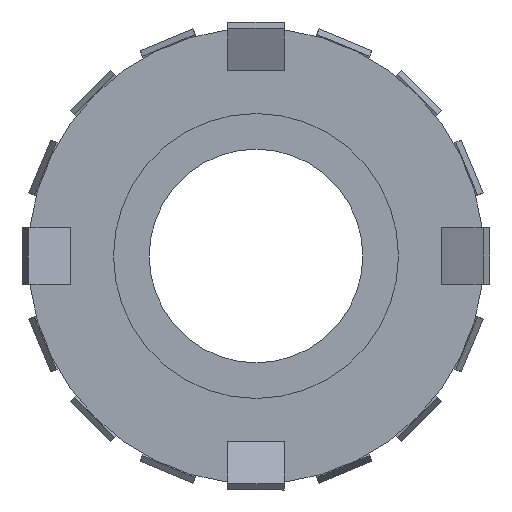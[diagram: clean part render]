
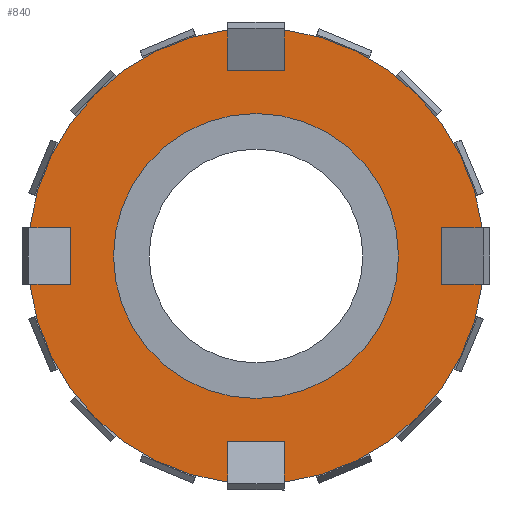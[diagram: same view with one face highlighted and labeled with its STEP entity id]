
A CAD part, left-side view. The second image highlights one B-rep face of the part: STEP entity #840.
In plain terms, the highlighted planar face has unit normal (-1, 0, 0).
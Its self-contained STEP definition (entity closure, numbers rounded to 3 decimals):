
#323 = ORIENTED_EDGE ( 'NONE', *, *, #851, .T. ) ;
#569 = VERTEX_POINT ( 'NONE', #3425 ) ;
#573 = EDGE_CURVE ( 'NONE', #574, #583, #3632, .T. ) ;
#574 = VERTEX_POINT ( 'NONE', #3794 ) ;
#583 = VERTEX_POINT ( 'NONE', #3590 ) ;
#786 = ORIENTED_EDGE ( 'NONE', *, *, #787, .F. ) ;
#787 = EDGE_CURVE ( 'NONE', #788, #982, #3984, .T. ) ;
#788 = VERTEX_POINT ( 'NONE', #3934 ) ;
#789 = ORIENTED_EDGE ( 'NONE', *, *, #790, .F. ) ;
#790 = EDGE_CURVE ( 'NONE', #852, #788, #3933, .T. ) ;
#840 = ADVANCED_FACE ( 'NONE', ( #3879, #3878 ), #3877, .F. ) ;
#841 = EDGE_LOOP ( 'NONE', ( #842, #882 ) ) ;
#842 = ORIENTED_EDGE ( 'NONE', *, *, #974, .F. ) ;
#851 = EDGE_CURVE ( 'NONE', #852, #853, #3916, .T. ) ;
#852 = VERTEX_POINT ( 'NONE', #3911 ) ;
#853 = VERTEX_POINT ( 'NONE', #3910 ) ;
#875 = EDGE_CURVE ( 'NONE', #569, #876, #4219, .T. ) ;
#876 = VERTEX_POINT ( 'NONE', #4215 ) ;
#882 = ORIENTED_EDGE ( 'NONE', *, *, #875, .F. ) ;
#883 = EDGE_LOOP ( 'NONE', ( #884, #888, #897, #898, #901, #977, #979, #980, #786, #789, #323, #915, #917, #916, #992, #993 ) ) ;
#884 = ORIENTED_EDGE ( 'NONE', *, *, #885, .F. ) ;
#885 = EDGE_CURVE ( 'NONE', #886, #887, #4040, .T. ) ;
#886 = VERTEX_POINT ( 'NONE', #4206 ) ;
#887 = VERTEX_POINT ( 'NONE', #4205 ) ;
#888 = ORIENTED_EDGE ( 'NONE', *, *, #896, .F. ) ;
#896 = EDGE_CURVE ( 'NONE', #574, #886, #4197, .T. ) ;
#897 = ORIENTED_EDGE ( 'NONE', *, *, #573, .T. ) ;
#898 = ORIENTED_EDGE ( 'NONE', *, *, #899, .F. ) ;
#899 = EDGE_CURVE ( 'NONE', #900, #583, #4187, .T. ) ;
#900 = VERTEX_POINT ( 'NONE', #4074 ) ;
#901 = ORIENTED_EDGE ( 'NONE', *, *, #902, .F. ) ;
#902 = EDGE_CURVE ( 'NONE', #903, #900, #4073, .T. ) ;
#903 = VERTEX_POINT ( 'NONE', #4069 ) ;
#915 = ORIENTED_EDGE ( 'NONE', *, *, #936, .F. ) ;
#916 = ORIENTED_EDGE ( 'NONE', *, *, #991, .F. ) ;
#917 = ORIENTED_EDGE ( 'NONE', *, *, #918, .F. ) ;
#918 = EDGE_CURVE ( 'NONE', #919, #937, #4252, .T. ) ;
#919 = VERTEX_POINT ( 'NONE', #4248 ) ;
#923 = VERTEX_POINT ( 'NONE', #4228 ) ;
#936 = EDGE_CURVE ( 'NONE', #937, #853, #4091, .T. ) ;
#937 = VERTEX_POINT ( 'NONE', #4087 ) ;
#959 = VERTEX_POINT ( 'NONE', #4162 ) ;
#961 = EDGE_CURVE ( 'NONE', #962, #959, #4161, .T. ) ;
#962 = VERTEX_POINT ( 'NONE', #4156 ) ;
#967 = EDGE_CURVE ( 'NONE', #970, #923, #4147, .T. ) ;
#970 = VERTEX_POINT ( 'NONE', #4133 ) ;
#974 = EDGE_CURVE ( 'NONE', #876, #569, #4126, .T. ) ;
#977 = ORIENTED_EDGE ( 'NONE', *, *, #978, .F. ) ;
#978 = EDGE_CURVE ( 'NONE', #970, #903, #4115, .T. ) ;
#979 = ORIENTED_EDGE ( 'NONE', *, *, #967, .T. ) ;
#980 = ORIENTED_EDGE ( 'NONE', *, *, #981, .F. ) ;
#981 = EDGE_CURVE ( 'NONE', #982, #923, #4111, .T. ) ;
#982 = VERTEX_POINT ( 'NONE', #4107 ) ;
#991 = EDGE_CURVE ( 'NONE', #962, #919, #4065, .T. ) ;
#992 = ORIENTED_EDGE ( 'NONE', *, *, #961, .T. ) ;
#993 = ORIENTED_EDGE ( 'NONE', *, *, #994, .F. ) ;
#994 = EDGE_CURVE ( 'NONE', #887, #959, #4061, .T. ) ;
#3425 = CARTESIAN_POINT ( 'NONE',  ( 5., 0., -10. ) ) ;
#3590 = CARTESIAN_POINT ( 'NONE',  ( 5., -15.875, -2. ) ) ;
#3632 = CIRCLE ( 'NONE', #3637, 16. ) ;
#3637 = AXIS2_PLACEMENT_3D ( 'NONE', #3797, #3796, #3795 ) ;
#3794 = CARTESIAN_POINT ( 'NONE',  ( 5., -2., -15.875 ) ) ;
#3795 = DIRECTION ( 'NONE',  ( 0., 0., 1. ) ) ;
#3796 = DIRECTION ( 'NONE',  ( -1., 0., 0. ) ) ;
#3797 = CARTESIAN_POINT ( 'NONE',  ( 5., 0., 0. ) ) ;
#3877 = PLANE ( 'NONE',  #3932 ) ;
#3878 = FACE_OUTER_BOUND ( 'NONE', #883, .T. ) ;
#3879 = FACE_BOUND ( 'NONE', #841, .T. ) ;
#3910 = CARTESIAN_POINT ( 'NONE',  ( 5., 15.875, 2. ) ) ;
#3911 = CARTESIAN_POINT ( 'NONE',  ( 5., 2., 15.875 ) ) ;
#3912 = DIRECTION ( 'NONE',  ( 0., 0., 1. ) ) ;
#3913 = DIRECTION ( 'NONE',  ( -1., 0., 0. ) ) ;
#3914 = CARTESIAN_POINT ( 'NONE',  ( 5., 0., 0. ) ) ;
#3915 = AXIS2_PLACEMENT_3D ( 'NONE', #3914, #3913, #3912 ) ;
#3916 = CIRCLE ( 'NONE', #3915, 16. ) ;
#3929 = DIRECTION ( 'NONE',  ( 0., 0., -1. ) ) ;
#3930 = DIRECTION ( 'NONE',  ( 1., 0., 0. ) ) ;
#3931 = CARTESIAN_POINT ( 'NONE',  ( 5., 16., 0. ) ) ;
#3932 = AXIS2_PLACEMENT_3D ( 'NONE', #3931, #3930, #3929 ) ;
#3933 = LINE ( 'NONE', #3964, #3963 ) ;
#3934 = CARTESIAN_POINT ( 'NONE',  ( 5., 2., 13. ) ) ;
#3935 = DIRECTION ( 'NONE',  ( 0., -1., 0. ) ) ;
#3936 = VECTOR ( 'NONE', #3935, 1000. ) ;
#3937 = CARTESIAN_POINT ( 'NONE',  ( 5., 2., 13. ) ) ;
#3962 = DIRECTION ( 'NONE',  ( 0., 0., -1. ) ) ;
#3963 = VECTOR ( 'NONE', #3962, 1000. ) ;
#3964 = CARTESIAN_POINT ( 'NONE',  ( 5., 2., 15.875 ) ) ;
#3984 = LINE ( 'NONE', #3937, #3936 ) ;
#4040 = LINE ( 'NONE', #4209, #4208 ) ;
#4058 = DIRECTION ( 'NONE',  ( 0., 0., -1. ) ) ;
#4059 = VECTOR ( 'NONE', #4058, 1000. ) ;
#4060 = CARTESIAN_POINT ( 'NONE',  ( 5., 2., -15.875 ) ) ;
#4061 = LINE ( 'NONE', #4060, #4059 ) ;
#4062 = DIRECTION ( 'NONE',  ( 0., -1., 0. ) ) ;
#4063 = VECTOR ( 'NONE', #4062, 1000. ) ;
#4064 = CARTESIAN_POINT ( 'NONE',  ( 5., 15.875, -2. ) ) ;
#4065 = LINE ( 'NONE', #4064, #4063 ) ;
#4069 = CARTESIAN_POINT ( 'NONE',  ( 5., -13., 2. ) ) ;
#4070 = DIRECTION ( 'NONE',  ( 0., 0., -1. ) ) ;
#4071 = VECTOR ( 'NONE', #4070, 1000. ) ;
#4072 = CARTESIAN_POINT ( 'NONE',  ( 5., -13., 2. ) ) ;
#4073 = LINE ( 'NONE', #4072, #4071 ) ;
#4074 = CARTESIAN_POINT ( 'NONE',  ( 5., -13., -2. ) ) ;
#4075 = DIRECTION ( 'NONE',  ( 0., -1., 0. ) ) ;
#4076 = VECTOR ( 'NONE', #4075, 1000. ) ;
#4077 = CARTESIAN_POINT ( 'NONE',  ( 5., -15.875, -2. ) ) ;
#4087 = CARTESIAN_POINT ( 'NONE',  ( 5., 13., 2. ) ) ;
#4088 = DIRECTION ( 'NONE',  ( 0., 1., 0. ) ) ;
#4089 = VECTOR ( 'NONE', #4088, 1000. ) ;
#4090 = CARTESIAN_POINT ( 'NONE',  ( 5., 15.875, 2. ) ) ;
#4091 = LINE ( 'NONE', #4090, #4089 ) ;
#4107 = CARTESIAN_POINT ( 'NONE',  ( 5., -2., 13. ) ) ;
#4108 = DIRECTION ( 'NONE',  ( 0., 0., 1. ) ) ;
#4109 = VECTOR ( 'NONE', #4108, 1000. ) ;
#4110 = CARTESIAN_POINT ( 'NONE',  ( 5., -2., 15.875 ) ) ;
#4111 = LINE ( 'NONE', #4110, #4109 ) ;
#4112 = DIRECTION ( 'NONE',  ( 0., 1., 0. ) ) ;
#4113 = VECTOR ( 'NONE', #4112, 1000. ) ;
#4114 = CARTESIAN_POINT ( 'NONE',  ( 5., -15.875, 2. ) ) ;
#4115 = LINE ( 'NONE', #4114, #4113 ) ;
#4122 = DIRECTION ( 'NONE',  ( 0., 0., 1. ) ) ;
#4123 = DIRECTION ( 'NONE',  ( -1., 0., 0. ) ) ;
#4124 = CARTESIAN_POINT ( 'NONE',  ( 5., 0., 0. ) ) ;
#4125 = AXIS2_PLACEMENT_3D ( 'NONE', #4124, #4123, #4122 ) ;
#4126 = CIRCLE ( 'NONE', #4125, 10. ) ;
#4133 = CARTESIAN_POINT ( 'NONE',  ( 5., -15.875, 2. ) ) ;
#4143 = DIRECTION ( 'NONE',  ( 0., 0., 1. ) ) ;
#4144 = DIRECTION ( 'NONE',  ( -1., 0., 0. ) ) ;
#4145 = CARTESIAN_POINT ( 'NONE',  ( 5., 0., 0. ) ) ;
#4146 = AXIS2_PLACEMENT_3D ( 'NONE', #4145, #4144, #4143 ) ;
#4147 = CIRCLE ( 'NONE', #4146, 16. ) ;
#4156 = CARTESIAN_POINT ( 'NONE',  ( 5., 15.875, -2. ) ) ;
#4157 = DIRECTION ( 'NONE',  ( 0., 0., 1. ) ) ;
#4158 = DIRECTION ( 'NONE',  ( -1., 0., 0. ) ) ;
#4159 = CARTESIAN_POINT ( 'NONE',  ( 5., 0., 0. ) ) ;
#4160 = AXIS2_PLACEMENT_3D ( 'NONE', #4159, #4158, #4157 ) ;
#4161 = CIRCLE ( 'NONE', #4160, 16. ) ;
#4162 = CARTESIAN_POINT ( 'NONE',  ( 5., 2., -15.875 ) ) ;
#4187 = LINE ( 'NONE', #4077, #4076 ) ;
#4188 = DIRECTION ( 'NONE',  ( 0., 0., 1. ) ) ;
#4189 = VECTOR ( 'NONE', #4188, 1000. ) ;
#4190 = CARTESIAN_POINT ( 'NONE',  ( 5., -2., -15.875 ) ) ;
#4197 = LINE ( 'NONE', #4190, #4189 ) ;
#4205 = CARTESIAN_POINT ( 'NONE',  ( 5., 2., -13. ) ) ;
#4206 = CARTESIAN_POINT ( 'NONE',  ( 5., -2., -13. ) ) ;
#4207 = DIRECTION ( 'NONE',  ( 0., 1., 0. ) ) ;
#4208 = VECTOR ( 'NONE', #4207, 1000. ) ;
#4209 = CARTESIAN_POINT ( 'NONE',  ( 5., -2., -13. ) ) ;
#4215 = CARTESIAN_POINT ( 'NONE',  ( 5., 0., 10. ) ) ;
#4216 = DIRECTION ( 'NONE',  ( 0., 0., 1. ) ) ;
#4217 = DIRECTION ( 'NONE',  ( -1., 0., 0. ) ) ;
#4218 = AXIS2_PLACEMENT_3D ( 'NONE', #4229, #4217, #4216 ) ;
#4219 = CIRCLE ( 'NONE', #4218, 10. ) ;
#4228 = CARTESIAN_POINT ( 'NONE',  ( 5., -2., 15.875 ) ) ;
#4229 = CARTESIAN_POINT ( 'NONE',  ( 5., 0., 0. ) ) ;
#4248 = CARTESIAN_POINT ( 'NONE',  ( 5., 13., -2. ) ) ;
#4249 = DIRECTION ( 'NONE',  ( 0., 0., 1. ) ) ;
#4250 = VECTOR ( 'NONE', #4249, 1000. ) ;
#4251 = CARTESIAN_POINT ( 'NONE',  ( 5., 13., -2. ) ) ;
#4252 = LINE ( 'NONE', #4251, #4250 ) ;
